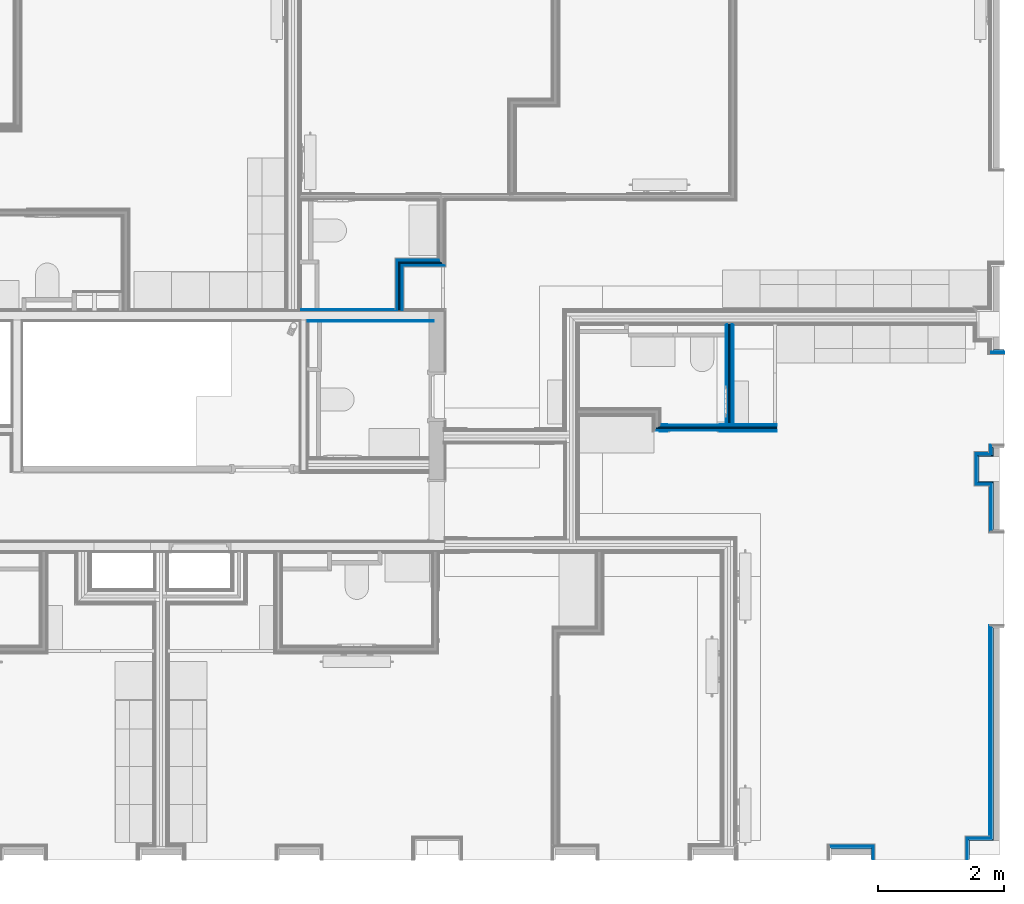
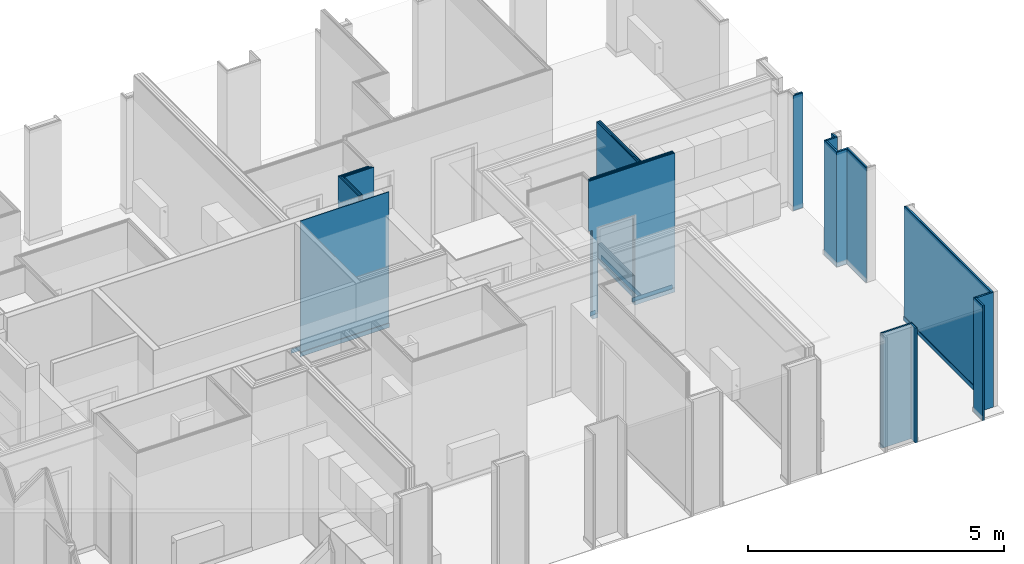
# One storey, part 24 of 65: 53 building element parts, 2 openings, 16 elements without a shape of their own.
"""IFC2X3 building model written with IfcOpenShell, lengths in metres."""

import ifcopenshell
import ifcopenshell.guid

model = None  # the IFC model being written
_history = None  # IfcOwnerHistory: only IFC2X3 demands one
_inside = {}  # id of a spatial element -> (the spatial element, [elements in it])
_under = {}  # id of a project, library or spatial element -> (it, [spatial elements below it])
_declared = {}  # id of a project -> (the project, [libraries it declares])
_typed = {}  # id of a type object -> (the type object, [elements of that type])
_made_of = {}  # id of a material, layer set ... -> (it, [elements and type objects made of it])


def new_model(schema):
    """Start an empty IFC model of exactly this schema.

    Asked for "IFC4X3", IfcOpenShell would pick the latest addendum, in which some entities
    have other attributes; the version numbers below select the first issue.
    IFC2X3 requires an IfcOwnerHistory on every rooted entity: one is made here for all.
    """
    global model, _history
    if schema == "IFC4X3":
        model = ifcopenshell.file(schema_version=(4, 3, 0, 0))
    else:
        model = ifcopenshell.file(schema=schema)
    _inside.clear()
    _under.clear()
    _declared.clear()
    _typed.clear()
    _made_of.clear()
    _history = None
    if model.schema == "IFC2X3":
        org = make("IfcOrganization", Name="unknown")
        user = make(
            "IfcPersonAndOrganization",
            ThePerson=make("IfcPerson", FamilyName="unknown"),
            TheOrganization=org,
        )
        app = make(
            "IfcApplication",
            ApplicationDeveloper=org,
            Version="unknown",
            ApplicationFullName="unknown",
            ApplicationIdentifier="unknown",
        )
        _history = make(
            "IfcOwnerHistory",
            OwningUser=user,
            OwningApplication=app,
            ChangeAction="ADDED",
            CreationDate=0,
        )
    return model


def make(cls, **values):
    """One entity of the class cls with the attributes given. An attribute that is None is left unset."""
    return model.create_entity(
        cls, **{name: value for name, value in values.items() if value is not None}
    )


def entity(cls, *values):
    """Any entity or typed value of the class cls, its attributes in the order of the schema. None: left unset."""
    e = model.create_entity(cls)
    for i, value in enumerate(values):
        if value is not None:
            e[i] = value
    return e


def rooted(cls, **values):
    """An entity with a GlobalId (a new one), such as an element, a storey or a relation."""
    return make(cls, GlobalId=ifcopenshell.guid.new(), OwnerHistory=_history, **values)


def si_unit(unit_type, name, prefix=None):
    """IfcSIUnit, for example si_unit("LENGTHUNIT", "METRE", prefix="MILLI")."""
    return make("IfcSIUnit", UnitType=unit_type, Prefix=prefix, Name=name)


def converted_unit(unit_type, name, factor, base, dimensions=None, offset=None):
    """IfcConversionBasedUnit, such as the inch: factor (a typed value) times the base unit."""
    return make(
        "IfcConversionBasedUnit"
        if offset is None
        else "IfcConversionBasedUnitWithOffset",
        ConversionOffset=offset,
        Dimensions=None
        if dimensions is None
        else entity("IfcDimensionalExponents", *dimensions),
        UnitType=unit_type,
        Name=name,
        ConversionFactor=make(
            "IfcMeasureWithUnit", ValueComponent=factor, UnitComponent=base
        ),
    )


def derived_unit(unit_type, elements):
    """IfcDerivedUnit: a product of units, each with its exponent."""
    return make(
        "IfcDerivedUnit",
        Elements=[
            make("IfcDerivedUnitElement", Unit=unit, Exponent=power)
            for unit, power in elements
        ],
        UnitType=unit_type,
    )


def money_unit(currency):
    """IfcMonetaryUnit."""
    return make("IfcMonetaryUnit", Currency=currency)


def assignment(units):
    """IfcUnitAssignment: the units of a project."""
    return None if units is None else make("IfcUnitAssignment", Units=units)


def point(xyz):
    """IfcCartesianPoint."""
    return None if xyz is None else make("IfcCartesianPoint", Coordinates=xyz)


def direction(xyz):
    """IfcDirection."""
    return None if xyz is None else make("IfcDirection", DirectionRatios=xyz)


def frame(location, z_axis=None, x_axis=None):
    """IfcAxis2Placement3D, a coordinate frame: its origin and axes. An axis left out is left unset."""
    return make(
        "IfcAxis2Placement3D",
        Location=point(location),
        Axis=direction(z_axis),
        RefDirection=direction(x_axis),
    )


def frame_2d(location, x_axis=None):
    """IfcAxis2Placement2D, a coordinate frame in the plane: its origin and x axis."""
    return make(
        "IfcAxis2Placement2D", Location=point(location), RefDirection=direction(x_axis)
    )


def origin_with_axes():
    """The frame at (0, 0, 0) with the z axis (0, 0, 1) and the x axis (1, 0, 0) written out."""
    return frame((0.0, 0.0, 0.0), z_axis=(0.0, 0.0, 1.0), x_axis=(1.0, 0.0, 0.0))


def place(relative_to, where):
    """IfcLocalPlacement: puts the frame where relative to a parent placement (None: the world)."""
    return make(
        "IfcLocalPlacement", PlacementRelTo=relative_to, RelativePlacement=where
    )


def context(
    kind, dimensions, precision=None, world=None, true_north=None, identifier=None
):
    """IfcGeometricRepresentationContext, for example the 3D "Model" context."""
    return make(
        "IfcGeometricRepresentationContext",
        ContextIdentifier=identifier,
        ContextType=kind,
        CoordinateSpaceDimension=dimensions,
        Precision=precision,
        WorldCoordinateSystem=world,
        TrueNorth=true_north,
    )


def subcontext(parent, identifier, kind, view, scale=None):
    """IfcGeometricRepresentationSubContext, for example "Body" below "Model"."""
    return make(
        "IfcGeometricRepresentationSubContext",
        ContextIdentifier=identifier,
        ContextType=kind,
        ParentContext=parent,
        TargetScale=scale,
        TargetView=view,
    )


def project(units=None, contexts=None):
    """IfcProject with its units and contexts."""
    return rooted(
        "IfcProject",
        Name="project",
        RepresentationContexts=contexts,
        UnitsInContext=assignment(units),
    )


def spatial(cls, under=None, at=None, **own):
    """A site, building, storey or space (cls), placed at a placement, below another one or the project."""
    s = rooted(cls, ObjectPlacement=at, **own)
    if under is not None:
        _under.setdefault(under.id(), (under, []))[1].append(s)
    return s


def polyline(points):
    """IfcPolyline through the points."""
    return make("IfcPolyline", Points=[point(p) for p in points])


def profile(cls, at=None, kind="AREA", **sizes):
    """A parametric profile (cls). Its sizes go by their IFC names, for example OverallWidth=200.0."""
    return make(cls, ProfileType=kind, Position=at, **sizes)


def rectangle(**sizes):
    """IfcRectangleProfileDef."""
    return profile("IfcRectangleProfileDef", **sizes)


def outline(outer, holes=None, kind="AREA"):
    """IfcArbitraryClosedProfileDef: a profile drawn as a closed curve; with holes, ...WithVoids."""
    if holes is None:
        return make("IfcArbitraryClosedProfileDef", ProfileType=kind, OuterCurve=outer)
    return make(
        "IfcArbitraryProfileDefWithVoids",
        ProfileType=kind,
        OuterCurve=outer,
        InnerCurves=holes,
    )


def extrude(swept, where, along, depth):
    """IfcExtrudedAreaSolid: the profile swept, set in the frame where, extruded along a direction by depth."""
    return make(
        "IfcExtrudedAreaSolid",
        SweptArea=swept,
        Position=where,
        ExtrudedDirection=direction(along),
        Depth=depth,
    )


def shape(context_of_items, identifier, shape_type, items):
    """IfcShapeRepresentation: the items that make up one representation, for example the "Body"."""
    return make(
        "IfcShapeRepresentation",
        ContextOfItems=context_of_items,
        RepresentationIdentifier=identifier,
        RepresentationType=shape_type,
        Items=items,
    )


def material(Name=None, Category=None):
    """IfcMaterial."""
    return make("IfcMaterial", Name=Name, Category=Category)


def made_of(thing, what):
    """Note that an element or type object is made of a material, layer set ...; save() writes the relation."""
    if what is not None:
        _made_of.setdefault(what.id(), (what, []))[1].append(thing)
    return thing


def type_object(cls, material=None, **own):
    """A type object (cls), such as IfcWallType, which elements share."""
    return made_of(rooted(cls, **own), material)


def element(
    cls,
    number,
    at=None,
    inside=None,
    cuts=None,
    type_object=None,
    material=None,
    context=None,
    identifier="Body",
    shape_type=None,
    held_by="IfcProductDefinitionShape",
    body=None,
    shapes=None,
    **own,
):
    """One element of the class cls, such as IfcWall. Its Tag is "e" and its number.

    at: its placement. inside: the storey or other place that contains it. cuts: it is an
    opening in that element (IfcRelVoidsElement). A single representation is given by context,
    identifier, shape_type and body (its items); several are given by shapes. held_by: the class
    of the entity that holds the representations. save() writes the other relations.
    """
    e = rooted(cls, Tag="e%d" % number, ObjectPlacement=at, **own)
    if body is not None:
        shapes = [shape(context, identifier, shape_type, body)]
    if shapes is not None:
        e.Representation = make(held_by, Representations=shapes)
    if inside is not None:
        _inside.setdefault(inside.id(), (inside, []))[1].append(e)
    if cuts is not None:
        rooted(
            "IfcRelVoidsElement", RelatingBuildingElement=cuts, RelatedOpeningElement=e
        )
    if type_object is not None:
        _typed.setdefault(type_object.id(), (type_object, []))[1].append(e)
    return made_of(e, material)


def aggregate(whole, parts):
    """IfcRelAggregates: a whole, such as a stair, and the parts it consists of."""
    return rooted("IfcRelAggregates", RelatingObject=whole, RelatedObjects=parts)


def save(model, path):
    """Write the relations noted so far, then the file.

    IfcRelAggregates (storeys below a building ...), IfcRelContainedInSpatialStructure (elements
    in a storey), IfcRelDefinesByType, IfcRelAssociatesMaterial and IfcRelDeclares: one each for
    every whole, place, type object, material and project.
    """
    for whole, parts in _under.values():
        aggregate(whole, parts)
    for where, things in _inside.values():
        rooted(
            "IfcRelContainedInSpatialStructure",
            RelatedElements=things,
            RelatingStructure=where,
        )
    for kind, things in _typed.values():
        rooted("IfcRelDefinesByType", RelatedObjects=things, RelatingType=kind)
    for what, things in _made_of.values():
        rooted("IfcRelAssociatesMaterial", RelatedObjects=things, RelatingMaterial=what)
    for by, libraries in _declared.values():
        rooted("IfcRelDeclares", RelatingContext=by, RelatedDefinitions=libraries)
    model.write(path)


model = new_model("IFC2X3")

# Units and contexts
model_context = context("Model", 3, precision=1e-05, world=origin_with_axes(), true_north=direction((0.0, 1.0)))
body_context = subcontext(model_context, "Body", "Model", "MODEL_VIEW", scale=1.0)
ifc_project = project(units=[si_unit("LENGTHUNIT", "METRE"), si_unit("AREAUNIT", "SQUARE_METRE"), si_unit("VOLUMEUNIT", "CUBIC_METRE"), si_unit("ABSORBEDDOSEUNIT", "GRAY"), si_unit("AMOUNTOFSUBSTANCEUNIT", "MOLE"), si_unit("DOSEEQUIVALENTUNIT", "SIEVERT"), si_unit("ELECTRICCAPACITANCEUNIT", "FARAD"), si_unit("ELECTRICCHARGEUNIT", "COULOMB"), si_unit("ELECTRICCONDUCTANCEUNIT", "SIEMENS"), si_unit("ELECTRICCURRENTUNIT", "AMPERE"), si_unit("ELECTRICRESISTANCEUNIT", "OHM"), si_unit("ELECTRICVOLTAGEUNIT", "VOLT"), si_unit("ENERGYUNIT", "JOULE"), si_unit("FORCEUNIT", "NEWTON"), si_unit("FREQUENCYUNIT", "HERTZ"), si_unit("ILLUMINANCEUNIT", "LUX"), si_unit("INDUCTANCEUNIT", "HENRY"), si_unit("LUMINOUSFLUXUNIT", "LUMEN"), si_unit("LUMINOUSINTENSITYUNIT", "CANDELA"), si_unit("MAGNETICFLUXDENSITYUNIT", "TESLA"), si_unit("MAGNETICFLUXUNIT", "WEBER"), si_unit("MASSUNIT", "GRAM"), converted_unit("PLANEANGLEUNIT", "degree", entity("IfcReal", 0.0174532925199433), si_unit("PLANEANGLEUNIT", "RADIAN"), dimensions=[0, 0, 0, 0, 0, 0, 0]), si_unit("POWERUNIT", "WATT"), si_unit("PRESSUREUNIT", "PASCAL"), si_unit("RADIOACTIVITYUNIT", "BECQUEREL"), si_unit("SOLIDANGLEUNIT", "STERADIAN"), si_unit("THERMODYNAMICTEMPERATUREUNIT", "KELVIN"), si_unit("TIMEUNIT", "SECOND"), derived_unit("ACCELERATIONUNIT", [(si_unit("LENGTHUNIT", "METRE"), 1), (si_unit("TIMEUNIT", "SECOND"), -2)]), derived_unit("ANGULARVELOCITYUNIT", [(converted_unit("PLANEANGLEUNIT", "degree", entity("IfcReal", 0.0174532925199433), si_unit("PLANEANGLEUNIT", "RADIAN"), dimensions=[0, 0, 0, 0, 0, 0, 0]), 1), (si_unit("TIMEUNIT", "SECOND"), -1)]), derived_unit("CURVATUREUNIT", [(converted_unit("PLANEANGLEUNIT", "degree", entity("IfcReal", 0.0174532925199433), si_unit("PLANEANGLEUNIT", "RADIAN"), dimensions=[0, 0, 0, 0, 0, 0, 0]), 1), (si_unit("LENGTHUNIT", "METRE"), -1)]), derived_unit("DYNAMICVISCOSITYUNIT", [(si_unit("PRESSUREUNIT", "PASCAL"), 1), (si_unit("TIMEUNIT", "SECOND"), 1)]), derived_unit("HEATFLUXDENSITYUNIT", [(si_unit("POWERUNIT", "WATT"), 1), (si_unit("LENGTHUNIT", "METRE"), -2)]), derived_unit("HEATINGVALUEUNIT", [(si_unit("ENERGYUNIT", "JOULE"), 1), (si_unit("MASSUNIT", "GRAM"), -1)]), derived_unit("INTEGERCOUNTRATEUNIT", [(si_unit("TIMEUNIT", "SECOND"), -1)]), derived_unit("IONCONCENTRATIONUNIT", [(si_unit("MASSUNIT", "GRAM"), 1), (si_unit("VOLUMEUNIT", "CUBIC_METRE"), -1)]), derived_unit("ISOTHERMALMOISTURECAPACITYUNIT", [(si_unit("VOLUMEUNIT", "CUBIC_METRE"), 1), (si_unit("MASSUNIT", "GRAM"), -1)]), derived_unit("KINEMATICVISCOSITYUNIT", [(si_unit("AREAUNIT", "SQUARE_METRE"), 1), (si_unit("TIMEUNIT", "SECOND"), -1)]), derived_unit("LINEARFORCEUNIT", [(si_unit("FORCEUNIT", "NEWTON"), 1), (si_unit("LENGTHUNIT", "METRE"), -1)]), derived_unit("LINEARMOMENTUNIT", [(si_unit("FORCEUNIT", "NEWTON"), 1), (si_unit("LENGTHUNIT", "METRE"), -1)]), derived_unit("LINEARSTIFFNESSUNIT", [(si_unit("FORCEUNIT", "NEWTON"), 1), (si_unit("LENGTHUNIT", "METRE"), -1)]), derived_unit("LINEARVELOCITYUNIT", [(si_unit("LENGTHUNIT", "METRE"), 1), (si_unit("TIMEUNIT", "SECOND"), -1)]), derived_unit("LUMINOUSINTENSITYDISTRIBUTIONUNIT", [(si_unit("LUMINOUSINTENSITYUNIT", "CANDELA"), 1), (si_unit("LUMINOUSFLUXUNIT", "LUMEN"), -1)]), derived_unit("MASSDENSITYUNIT", [(si_unit("MASSUNIT", "GRAM"), 1), (si_unit("VOLUMEUNIT", "CUBIC_METRE"), -1)]), derived_unit("MASSFLOWRATEUNIT", [(si_unit("MASSUNIT", "GRAM"), 1), (si_unit("TIMEUNIT", "SECOND"), -1)]), derived_unit("MASSPERLENGTHUNIT", [(si_unit("MASSUNIT", "GRAM"), 1), (si_unit("LENGTHUNIT", "METRE"), -1)]), derived_unit("MODULUSOFELASTICITYUNIT", [(si_unit("FORCEUNIT", "NEWTON"), 1), (si_unit("AREAUNIT", "SQUARE_METRE"), -1)]), derived_unit("MODULUSOFLINEARSUBGRADEREACTIONUNIT", [(si_unit("FORCEUNIT", "NEWTON"), 1), (si_unit("LENGTHUNIT", "METRE"), -2)]), derived_unit("MODULUSOFROTATIONALSUBGRADEREACTIONUNIT", [(si_unit("FORCEUNIT", "NEWTON"), 1), (si_unit("LENGTHUNIT", "METRE"), 1)]), derived_unit("MODULUSOFSUBGRADEREACTIONUNIT", [(si_unit("FORCEUNIT", "NEWTON"), 1), (si_unit("VOLUMEUNIT", "CUBIC_METRE"), -1)]), derived_unit("MOISTUREDIFFUSIVITYUNIT", [(si_unit("VOLUMEUNIT", "CUBIC_METRE"), 1), (si_unit("TIMEUNIT", "SECOND"), -1)]), derived_unit("MOLECULARWEIGHTUNIT", [(si_unit("MASSUNIT", "GRAM"), 1), (si_unit("AMOUNTOFSUBSTANCEUNIT", "MOLE"), -1)]), derived_unit("PLANARFORCEUNIT", [(si_unit("FORCEUNIT", "NEWTON"), 1), (si_unit("LENGTHUNIT", "METRE"), -2)]), derived_unit("ROTATIONALFREQUENCYUNIT", [(si_unit("TIMEUNIT", "SECOND"), -1)]), derived_unit("ROTATIONALMASSUNIT", [(si_unit("MASSUNIT", "GRAM"), 1), (si_unit("LENGTHUNIT", "METRE"), 2)]), derived_unit("ROTATIONALSTIFFNESSUNIT", [(si_unit("FORCEUNIT", "NEWTON"), 1), (si_unit("LENGTHUNIT", "METRE"), 1), (converted_unit("PLANEANGLEUNIT", "degree", entity("IfcReal", 0.0174532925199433), si_unit("PLANEANGLEUNIT", "RADIAN"), dimensions=[0, 0, 0, 0, 0, 0, 0]), -1)]), derived_unit("SECTIONAREAINTEGRALUNIT", [(si_unit("LENGTHUNIT", "METRE"), 5)]), derived_unit("SECTIONMODULUSUNIT", [(si_unit("LENGTHUNIT", "METRE"), 3)]), derived_unit("SHEARMODULUSUNIT", [(si_unit("FORCEUNIT", "NEWTON"), 1), (si_unit("AREAUNIT", "SQUARE_METRE"), -1)]), derived_unit("SOUNDPOWERUNIT", [(si_unit("ENERGYUNIT", "JOULE"), 1), (si_unit("TIMEUNIT", "SECOND"), -1)]), derived_unit("SPECIFICHEATCAPACITYUNIT", [(si_unit("FORCEUNIT", "NEWTON"), 1), (si_unit("MASSUNIT", "GRAM"), -1), (si_unit("THERMODYNAMICTEMPERATUREUNIT", "KELVIN"), -1)]), derived_unit("TEMPERATUREGRADIENTUNIT", [(si_unit("THERMODYNAMICTEMPERATUREUNIT", "KELVIN"), 1), (si_unit("LENGTHUNIT", "METRE"), -1)]), derived_unit("THERMALADMITTANCEUNIT", [(si_unit("POWERUNIT", "WATT"), 1), (si_unit("AREAUNIT", "SQUARE_METRE"), -1), (si_unit("THERMODYNAMICTEMPERATUREUNIT", "KELVIN"), -1)]), derived_unit("THERMALCONDUCTANCEUNIT", [(si_unit("POWERUNIT", "WATT"), 1), (si_unit("LENGTHUNIT", "METRE"), -1), (si_unit("THERMODYNAMICTEMPERATUREUNIT", "KELVIN"), -1)]), derived_unit("THERMALEXPANSIONCOEFFICIENTUNIT", [(si_unit("THERMODYNAMICTEMPERATUREUNIT", "KELVIN"), -1)]), derived_unit("THERMALRESISTANCEUNIT", [(si_unit("AREAUNIT", "SQUARE_METRE"), 1), (si_unit("POWERUNIT", "WATT"), -1)]), derived_unit("THERMALTRANSMITTANCEUNIT", [(si_unit("POWERUNIT", "WATT"), 1), (si_unit("AREAUNIT", "SQUARE_METRE"), -1), (si_unit("THERMODYNAMICTEMPERATUREUNIT", "KELVIN"), -1)]), derived_unit("TORQUEUNIT", [(si_unit("FORCEUNIT", "NEWTON"), 1), (si_unit("LENGTHUNIT", "METRE"), 1)]), derived_unit("VAPORPERMEABILITYUNIT", [(si_unit("MASSUNIT", "GRAM"), 1), (si_unit("TIMEUNIT", "SECOND"), -1)]), derived_unit("VOLUMETRICFLOWRATEUNIT", [(si_unit("VOLUMEUNIT", "CUBIC_METRE"), 1), (si_unit("TIMEUNIT", "SECOND"), -1)]), derived_unit("WARPINGCONSTANTUNIT", [(si_unit("LENGTHUNIT", "METRE"), 6)]), derived_unit("WARPINGMOMENTUNIT", [(si_unit("FORCEUNIT", "NEWTON"), 1), (si_unit("LENGTHUNIT", "METRE"), 2)]), money_unit("GBP")], contexts=[model_context])

# Site, building, storey
site_placement = place(None, origin_with_axes())
site = spatial("IfcSite", under=ifc_project, at=site_placement, Name="Site", CompositionType="ELEMENT")
building_placement = place(site_placement, origin_with_axes())
building = spatial("IfcBuilding", under=site, at=building_placement, Name="Building01", CompositionType="ELEMENT")
storey_placement = place(building_placement, frame((0.0, 0.0, 8.64), z_axis=(0.0, 0.0, 1.0), x_axis=(1.0, 0.0, 0.0)))
storey = spatial("IfcBuildingStorey", under=building, at=storey_placement, Name="2F", CompositionType="ELEMENT", Elevation=8.64)

# Wall, building element parts
wall_type_1 = type_object("IfcWallType", Name="SHE_A-Walls_Type06d_ExternalWallInsulation_48mm", PredefinedType="NOTDEFINED")
wall_1_placement = place(storey_placement, frame((24.143, 0.27, 0.0), z_axis=(0.0, 0.0, 1.0), x_axis=(1.0, 0.0, 0.0)))
wall_1 = element("IfcWall", 1, at=wall_1_placement, inside=storey, type_object=wall_type_1, Name="6D", ObjectType="SHE_A-Walls_Type06d_ExternalWallInsulation_48mm")
ifc_material_1 = material(Name="A_BSUK_Insulation")
placement_1 = place(wall_1_placement, origin_with_axes())
building_element_part_1 = element("IfcBuildingElementPart", 2, at=placement_1, material=ifc_material_1, Name="1", context=body_context, shape_type="SweptSolid", body=[
    extrude(outline(polyline([(0.66, 0.036), (-0.036, 0.036), (0.0, 0.0), (0.624, 0.0), (0.66, 0.036)])), origin_with_axes(), (0.0, 0.0, 1.0), 2.74),
])
ifc_material_2 = material(Name="A_BSUK_WallInternal_Finishes_Plasterboard")
building_element_part_2 = element("IfcBuildingElementPart", 3, at=placement_1, material=ifc_material_2, Name="2", context=body_context, shape_type="SweptSolid", body=[
    extrude(outline(polyline([(0.672, 0.048), (-0.048, 0.048), (-0.035, 0.035), (0.659, 0.035), (0.672, 0.048)])), origin_with_axes(), (0.0, 0.0, 1.0), 2.74),
])
aggregate(wall_1, [building_element_part_1, building_element_part_2])

wall_2_placement = place(storey_placement, frame((24.767, 0.27, 0.0), z_axis=(0.0, 0.0, 1.0), x_axis=(0.0, -1.0, 0.0)))
wall_2 = element("IfcWall", 4, at=wall_2_placement, inside=storey, type_object=wall_type_1, Name="6D", ObjectType="SHE_A-Walls_Type06d_ExternalWallInsulation_48mm")
placement_2 = place(wall_2_placement, origin_with_axes())
building_element_part_3 = element("IfcBuildingElementPart", 5, at=placement_2, material=ifc_material_1, Name="1", context=body_context, shape_type="SweptSolid", body=[
    extrude(outline(polyline([(-0.036, 0.036), (0.0, 0.0), (0.17, 0.0), (0.17, 0.036), (-0.036, 0.036)])), origin_with_axes(), (0.0, 0.0, 1.0), 2.74),
])
building_element_part_4 = element("IfcBuildingElementPart", 6, at=placement_2, material=ifc_material_2, Name="2", context=body_context, shape_type="SweptSolid", body=[
    extrude(outline(polyline([(-0.048, 0.048), (-0.035, 0.035), (0.17, 0.035), (0.17, 0.048), (-0.048, 0.048)])), origin_with_axes(), (0.0, 0.0, 1.0), 2.74),
])
aggregate(wall_2, [building_element_part_3, building_element_part_4])

wall_3_placement = place(storey_placement, frame((26.333, 0.1, 0.0), z_axis=(0.0, 0.0, 1.0), x_axis=(0.0, 1.0, 0.0)))
wall_3 = element("IfcWall", 7, at=wall_3_placement, inside=storey, type_object=wall_type_1, Name="6D", ObjectType="SHE_A-Walls_Type06d_ExternalWallInsulation_48mm")
placement_3 = place(wall_3_placement, origin_with_axes())
building_element_part_5 = element("IfcBuildingElementPart", 8, at=placement_3, material=ifc_material_1, Name="1", context=body_context, shape_type="SweptSolid", body=[
    extrude(outline(polyline([(0.336, 0.036), (0.0, 0.036), (0.0, 0.0), (0.3, 0.0), (0.336, 0.036)])), origin_with_axes(), (0.0, 0.0, 1.0), 2.74),
])
building_element_part_6 = element("IfcBuildingElementPart", 9, at=placement_3, material=ifc_material_2, Name="2", context=body_context, shape_type="SweptSolid", body=[
    extrude(outline(polyline([(0.348, 0.048), (0.0, 0.048), (0.0, 0.035), (0.335, 0.035), (0.348, 0.048)])), origin_with_axes(), (0.0, 0.0, 1.0), 2.74),
])
aggregate(wall_3, [building_element_part_5, building_element_part_6])

wall_4_placement = place(storey_placement, frame((26.333, 0.4, 0.0), z_axis=(0.0, 0.0, 1.0), x_axis=(1.0, 0.0, 0.0)))
wall_4 = element("IfcWall", 10, at=wall_4_placement, inside=storey, type_object=wall_type_1, Name="6D", ObjectType="SHE_A-Walls_Type06d_ExternalWallInsulation_48mm")
placement_4 = place(wall_4_placement, origin_with_axes())
building_element_part_7 = element("IfcBuildingElementPart", 11, at=placement_4, material=ifc_material_1, Name="1", context=body_context, shape_type="SweptSolid", body=[
    extrude(outline(polyline([(0.341, 0.036), (-0.036, 0.036), (0.0, 0.0), (0.377, 0.0), (0.341, 0.036)])), origin_with_axes(), (0.0, 0.0, 1.0), 2.74),
])
building_element_part_8 = element("IfcBuildingElementPart", 12, at=placement_4, material=ifc_material_2, Name="2", context=body_context, shape_type="SweptSolid", body=[
    extrude(outline(polyline([(0.329, 0.048), (-0.048, 0.048), (-0.035, 0.035), (0.342, 0.035), (0.329, 0.048)])), origin_with_axes(), (0.0, 0.0, 1.0), 2.74),
])
aggregate(wall_4, [building_element_part_7, building_element_part_8])

wall_5_placement = place(storey_placement, frame((26.71, 0.4, 0.0), z_axis=(0.0, 0.0, 1.0), x_axis=(0.0, 1.0, 0.0)))
wall_5 = element("IfcWall", 13, at=wall_5_placement, inside=storey, type_object=wall_type_1, Name="6D", ObjectType="SHE_A-Walls_Type06d_ExternalWallInsulation_48mm")
placement_5 = place(wall_5_placement, origin_with_axes())
building_element_part_9 = element("IfcBuildingElementPart", 14, at=placement_5, material=ifc_material_1, Name="1", context=body_context, shape_type="SweptSolid", body=[
    extrude(outline(polyline([(3.41018, 0.036), (0.036, 0.036), (0.0, 0.0), (3.37418, 0.0), (3.41018, 0.036)])), origin_with_axes(), (0.0, 0.0, 1.0), 2.74),
])
building_element_part_10 = element("IfcBuildingElementPart", 15, at=placement_5, material=ifc_material_2, Name="2", context=body_context, shape_type="SweptSolid", body=[
    extrude(outline(polyline([(3.42218, 0.048), (0.048, 0.048), (0.035, 0.035), (3.40918, 0.035), (3.42218, 0.048)])), origin_with_axes(), (0.0, 0.0, 1.0), 2.74),
])
ifc_material_3 = material(Name="A_BSUK_Walls_Timber")
building_element_part_11 = element("IfcBuildingElementPart", 16, at=placement_5, material=ifc_material_3, Name="3", context=body_context, shape_type="SweptSolid", body=[
    extrude(outline(polyline([(0.063, 0.063), (0.048, 0.048), (3.42218, 0.048), (3.42218, 0.063), (0.063, 0.063)])), frame((0.0, 0.0, 0.015), z_axis=(0.0, 0.0, 1.0), x_axis=(1.0, 0.0, 0.0)), (0.0, 0.0, 1.0), 0.1),
])
aggregate(wall_5, [building_element_part_9, building_element_part_10, building_element_part_11])

wall_6_placement = place(storey_placement, frame((26.71, 5.34018, 0.0), z_axis=(0.0, 0.0, 1.0), x_axis=(0.0, 1.0, 0.0)))
wall_6 = element("IfcWall", 17, at=wall_6_placement, inside=storey, type_object=wall_type_1, Name="6D", ObjectType="SHE_A-Walls_Type06d_ExternalWallInsulation_48mm")
placement_6 = place(wall_6_placement, origin_with_axes())
building_element_part_12 = element("IfcBuildingElementPart", 18, at=placement_6, material=ifc_material_1, Name="1", context=body_context, shape_type="SweptSolid", body=[
    extrude(outline(polyline([(0.72382, 0.036), (-0.036, 0.036), (0.0, 0.0), (0.75982, 0.0), (0.72382, 0.036)])), origin_with_axes(), (0.0, 0.0, 1.0), 2.74),
])
building_element_part_13 = element("IfcBuildingElementPart", 19, at=placement_6, material=ifc_material_2, Name="2", context=body_context, shape_type="SweptSolid", body=[
    extrude(outline(polyline([(0.71182, 0.048), (-0.048, 0.048), (-0.035, 0.035), (0.72482, 0.035), (0.71182, 0.048)])), origin_with_axes(), (0.0, 0.0, 1.0), 2.74),
])
aggregate(wall_6, [building_element_part_12, building_element_part_13])

wall_7_placement = place(storey_placement, frame((26.71, 6.1, 0.0), z_axis=(0.0, 0.0, 1.0), x_axis=(-1.0, 0.0, 0.0)))
wall_7 = element("IfcWall", 20, at=wall_7_placement, inside=storey, type_object=wall_type_1, Name="6D", ObjectType="SHE_A-Walls_Type06d_ExternalWallInsulation_48mm")
placement_7 = place(wall_7_placement, origin_with_axes())
building_element_part_14 = element("IfcBuildingElementPart", 21, at=placement_7, material=ifc_material_1, Name="1", context=body_context, shape_type="SweptSolid", body=[
    extrude(outline(polyline([(0.266, 0.036), (0.036, 0.036), (0.0, 0.0), (0.23, 0.0), (0.266, 0.036)])), origin_with_axes(), (0.0, 0.0, 1.0), 2.74),
])
building_element_part_15 = element("IfcBuildingElementPart", 22, at=placement_7, material=ifc_material_2, Name="2", context=body_context, shape_type="SweptSolid", body=[
    extrude(outline(polyline([(0.278, 0.048), (0.048, 0.048), (0.035, 0.035), (0.265, 0.035), (0.278, 0.048)])), origin_with_axes(), (0.0, 0.0, 1.0), 2.74),
])
aggregate(wall_7, [building_element_part_14, building_element_part_15])

wall_8_placement = place(storey_placement, frame((26.48, 6.1, 0.0), z_axis=(0.0, 0.0, 1.0), x_axis=(0.0, 1.0, 0.0)))
wall_8 = element("IfcWall", 23, at=wall_8_placement, inside=storey, type_object=wall_type_1, Name="6D", ObjectType="SHE_A-Walls_Type06d_ExternalWallInsulation_48mm")
placement_8 = place(wall_8_placement, origin_with_axes())
building_element_part_16 = element("IfcBuildingElementPart", 24, at=placement_8, material=ifc_material_1, Name="1", context=body_context, shape_type="SweptSolid", body=[
    extrude(outline(polyline([(0.436, 0.036), (-0.036, 0.036), (0.0, 0.0), (0.4, 0.0), (0.436, 0.036)])), origin_with_axes(), (0.0, 0.0, 1.0), 2.74),
])
building_element_part_17 = element("IfcBuildingElementPart", 25, at=placement_8, material=ifc_material_2, Name="2", context=body_context, shape_type="SweptSolid", body=[
    extrude(outline(polyline([(0.448, 0.048), (-0.048, 0.048), (-0.035, 0.035), (0.435, 0.035), (0.448, 0.048)])), origin_with_axes(), (0.0, 0.0, 1.0), 2.74),
])
aggregate(wall_8, [building_element_part_16, building_element_part_17])

wall_9_placement = place(storey_placement, frame((26.48, 6.5, 0.0), z_axis=(0.0, 0.0, 1.0), x_axis=(1.0, 0.0, 0.0)))
wall_9 = element("IfcWall", 26, at=wall_9_placement, inside=storey, type_object=wall_type_1, Name="6D", ObjectType="SHE_A-Walls_Type06d_ExternalWallInsulation_48mm")
placement_9 = place(wall_9_placement, origin_with_axes())
building_element_part_18 = element("IfcBuildingElementPart", 27, at=placement_9, material=ifc_material_1, Name="1", context=body_context, shape_type="SweptSolid", body=[
    extrude(outline(polyline([(0.194, 0.036), (-0.036, 0.036), (0.0, 0.0), (0.23, 0.0), (0.194, 0.036)])), origin_with_axes(), (0.0, 0.0, 1.0), 2.74),
])
building_element_part_19 = element("IfcBuildingElementPart", 28, at=placement_9, material=ifc_material_2, Name="2", context=body_context, shape_type="SweptSolid", body=[
    extrude(outline(polyline([(0.182, 0.048), (-0.048, 0.048), (-0.035, 0.035), (0.195, 0.035), (0.182, 0.048)])), origin_with_axes(), (0.0, 0.0, 1.0), 2.74),
])
aggregate(wall_9, [building_element_part_18, building_element_part_19])

wall_10_placement = place(storey_placement, frame((26.71, 6.5, 0.0), z_axis=(0.0, 0.0, 1.0), x_axis=(0.0, 1.0, 0.0)))
wall_10 = element("IfcWall", 29, at=wall_10_placement, inside=storey, type_object=wall_type_1, Name="6D", ObjectType="SHE_A-Walls_Type06d_ExternalWallInsulation_48mm")
placement_10 = place(wall_10_placement, origin_with_axes())
building_element_part_20 = element("IfcBuildingElementPart", 30, at=placement_10, material=ifc_material_1, Name="1", context=body_context, shape_type="SweptSolid", body=[
    extrude(outline(polyline([(0.170326, 0.036), (0.036, 0.036), (0.0, 0.0), (0.134326, 0.0), (0.170326, 0.036)])), origin_with_axes(), (0.0, 0.0, 1.0), 2.74),
])
building_element_part_21 = element("IfcBuildingElementPart", 31, at=placement_10, material=ifc_material_2, Name="2", context=body_context, shape_type="SweptSolid", body=[
    extrude(outline(polyline([(0.182326, 0.048), (0.048, 0.048), (0.035, 0.035), (0.169326, 0.035), (0.182326, 0.048)])), origin_with_axes(), (0.0, 0.0, 1.0), 2.74),
])
aggregate(wall_10, [building_element_part_20, building_element_part_21])

wall_type_2 = type_object("IfcWallType", Name="SHE_A-Walls_Type05a_Partition_95mm_tall", PredefinedType="NOTDEFINED")
wall_11_placement = place(storey_placement, frame((17.273132, 8.82, 0.0), z_axis=(0.0, 0.0, 1.0), x_axis=(0.0, 1.0, 0.0)))
wall_11 = element("IfcWall", 32, at=wall_11_placement, inside=storey, type_object=wall_type_2, Name="5A", ObjectType="SHE_A-Walls_Type05a_Partition_95mm_tall")
placement_11 = place(wall_11_placement, origin_with_axes())
building_element_part_22 = element("IfcBuildingElementPart", 33, at=placement_11, material=ifc_material_2, Name="2", context=body_context, shape_type="SweptSolid", body=[
    extrude(outline(polyline([(0.717, -0.048), (0.0, -0.048), (0.0, -0.06), (0.705, -0.06), (0.717, -0.048)])), origin_with_axes(), (0.0, 0.0, 1.0), 3.24),
])
ifc_material_4 = material(Name="Air Cavity")
building_element_part_23 = element("IfcBuildingElementPart", 34, at=placement_11, material=ifc_material_4, Name="3", context=body_context, shape_type="SweptSolid", body=[
    extrude(outline(polyline([(0.74, -0.025), (0.0, -0.025), (0.0, -0.048), (0.717, -0.048), (0.74, -0.025)])), origin_with_axes(), (0.0, 0.0, 1.0), 3.24),
])
building_element_part_24 = element("IfcBuildingElementPart", 35, at=placement_11, material=ifc_material_1, Name="4", context=body_context, shape_type="SweptSolid", body=[
    extrude(outline(polyline([(0.765, 0.0), (0.0, 0.0), (0.0, -0.025), (0.74, -0.025), (0.765, 0.0)])), origin_with_axes(), (0.0, 0.0, 1.0), 3.24),
])
building_element_part_25 = element("IfcBuildingElementPart", 36, at=placement_11, material=ifc_material_4, Name="5", context=body_context, shape_type="SweptSolid", body=[
    extrude(outline(polyline([(0.788, 0.023), (0.0, 0.023), (0.0, 0.0), (0.765, 0.0), (0.788, 0.023)])), origin_with_axes(), (0.0, 0.0, 1.0), 3.24),
])
building_element_part_26 = element("IfcBuildingElementPart", 37, at=placement_11, material=ifc_material_2, Name="6", context=body_context, shape_type="SweptSolid", body=[
    extrude(outline(polyline([(0.8, 0.035), (0.0, 0.035), (0.0, 0.023), (0.788, 0.023), (0.8, 0.035)])), origin_with_axes(), (0.0, 0.0, 1.0), 3.24),
])
aggregate(wall_11, [building_element_part_22, building_element_part_23, building_element_part_24, building_element_part_25, building_element_part_26])

wall_12_placement = place(storey_placement, frame((17.273132, 9.585, 0.0), z_axis=(0.0, 0.0, 1.0), x_axis=(1.0, 0.0, 0.0)))
wall_12 = element("IfcWall", 38, at=wall_12_placement, inside=storey, type_object=wall_type_2, Name="5A", ObjectType="SHE_A-Walls_Type05a_Partition_95mm_tall")
placement_12 = place(wall_12_placement, origin_with_axes())
building_element_part_27 = element("IfcBuildingElementPart", 39, at=placement_12, material=ifc_material_2, Name="2", context=body_context, shape_type="SweptSolid", body=[
    extrude(outline(polyline([(0.714868, -0.048), (0.048, -0.048), (0.06, -0.06), (0.726868, -0.06), (0.714868, -0.048)])), origin_with_axes(), (0.0, 0.0, 1.0), 3.24),
])
building_element_part_28 = element("IfcBuildingElementPart", 40, at=placement_12, material=ifc_material_4, Name="3", context=body_context, shape_type="SweptSolid", body=[
    extrude(outline(polyline([(0.691868, -0.025), (0.025, -0.025), (0.048, -0.048), (0.714868, -0.048), (0.691868, -0.025)])), origin_with_axes(), (0.0, 0.0, 1.0), 3.24),
])
building_element_part_29 = element("IfcBuildingElementPart", 41, at=placement_12, material=ifc_material_1, Name="4", context=body_context, shape_type="SweptSolid", body=[
    extrude(outline(polyline([(0.666868, 0.0), (0.0, 0.0), (0.025, -0.025), (0.691868, -0.025), (0.666868, 0.0)])), origin_with_axes(), (0.0, 0.0, 1.0), 3.24),
])
building_element_part_30 = element("IfcBuildingElementPart", 42, at=placement_12, material=ifc_material_4, Name="5", context=body_context, shape_type="SweptSolid", body=[
    extrude(outline(polyline([(0.643868, 0.023), (-0.023, 0.023), (0.0, 0.0), (0.666868, 0.0), (0.643868, 0.023)])), origin_with_axes(), (0.0, 0.0, 1.0), 3.24),
])
building_element_part_31 = element("IfcBuildingElementPart", 43, at=placement_12, material=ifc_material_2, Name="6", context=body_context, shape_type="SweptSolid", body=[
    extrude(outline(polyline([(0.631868, 0.035), (-0.035, 0.035), (-0.023, 0.023), (0.643868, 0.023), (0.631868, 0.035)])), origin_with_axes(), (0.0, 0.0, 1.0), 3.24),
])
aggregate(wall_12, [building_element_part_27, building_element_part_28, building_element_part_29, building_element_part_30, building_element_part_31])

wall_type_3 = type_object("IfcWallType", Name="SHE_A-Walls_Type03a_BlockworkWall_170mm", PredefinedType="NOTDEFINED")
wall_13_placement = place(storey_placement, frame((17.75, 8.805, 0.0), z_axis=(0.0, 0.0, 1.0), x_axis=(-1.0, 0.0, 0.0)))
wall_13 = element("IfcWall", 44, at=wall_13_placement, inside=storey, type_object=wall_type_3, Name="4B", ObjectType="SHE_A-Walls_Type03a_BlockworkWall_170mm")
placement_13 = place(wall_13_placement, origin_with_axes())
building_element_part_32 = element("IfcBuildingElementPart", 45, at=placement_13, material=ifc_material_3, Name="6", context=body_context, shape_type="SweptSolid", body=[
    extrude(rectangle(XDim=1.515, YDim=0.015, at=frame_2d((1.269368, -0.0225), x_axis=(-1.0, 0.0))), frame((0.0, 0.0, 0.015), z_axis=(0.0, 0.0, 1.0), x_axis=(1.0, 0.0, 0.0)), (0.0, 0.0, 1.0), 0.1),
])
ifc_material_5 = material(Name="A_BSUK_WallInternal_Finishes_Plaster")
building_element_part_33 = element("IfcBuildingElementPart", 46, at=placement_13, material=ifc_material_5, Name="9", context=body_context, shape_type="SweptSolid", body=[
    extrude(rectangle(XDim=2.0, YDim=0.015, at=frame_2d((0.92, 0.1475), x_axis=(-1.0, 0.0))), origin_with_axes(), (0.0, 0.0, 1.0), 3.24),
])
building_element_part_34 = element("IfcBuildingElementPart", 47, at=placement_13, material=ifc_material_3, Name="12", context=body_context, shape_type="SweptSolid", body=[
    extrude(rectangle(XDim=2.0, YDim=0.015, at=frame_2d((0.92, 0.1625), x_axis=(-1.0, 0.0))), frame((0.0, 0.0, 0.015), z_axis=(0.0, 0.0, 1.0), x_axis=(1.0, 0.0, 0.0)), (0.0, 0.0, 1.0), 0.1),
])
aggregate(wall_13, [building_element_part_32, building_element_part_33, building_element_part_34])

# Wall, openings, building element parts
wall_14_placement = place(storey_placement, frame((21.357661, 6.94, 0.0), z_axis=(0.0, 0.0, 1.0), x_axis=(1.0, 0.0, 0.0)))
wall_14 = element("IfcWall", 48, at=wall_14_placement, inside=storey, type_object=wall_type_2, Name="5A", ObjectType="SHE_A-Walls_Type05a_Partition_95mm_tall")
opening_1_placement = place(wall_14_placement, frame((-0.773, -0.05, -0.015), z_axis=(0.0, 0.0, 1.0), x_axis=(1.0, 0.0, 0.0)))
element("IfcOpeningElement", 49, at=opening_1_placement, cuts=wall_14, Name="Opening", ObjectType="Opening", context=body_context, shape_type="SweptSolid", body=[
    extrude(rectangle(XDim=0.834, YDim=2.142, at=frame_2d((-0.417, 1.071), x_axis=(1.0, 0.0))), frame((0.0, 0.0, 0.0), z_axis=(0.0, 1.0, 0.0), x_axis=(-1.0, 0.0, 0.0)), (0.0, 0.0, 1.0), 0.125),
])
opening_2_placement = place(wall_14_placement, frame((0.177, -0.05, 0.0), z_axis=(0.0, 0.0, 1.0), x_axis=(1.0, 0.0, 0.0)))
element("IfcOpeningElement", 50, at=opening_2_placement, cuts=wall_14, Name="Opening", ObjectType="Opening", context=body_context, shape_type="SweptSolid", body=[
    extrude(rectangle(XDim=2.142, YDim=0.834, at=frame_2d((-0.417, 1.071), x_axis=(0.0, -1.0))), frame((0.0, 0.0, 0.0), z_axis=(0.0, 1.0, 0.0), x_axis=(-1.0, 0.0, 0.0)), (0.0, 0.0, 1.0), 0.125),
])
placement_14 = place(wall_14_placement, origin_with_axes())
building_element_part_35 = element("IfcBuildingElementPart", 51, at=placement_14, material=ifc_material_3, Name="1", context=body_context, shape_type="SweptSolid", body=[
    extrude(outline(polyline([(1.913868, -0.035), (-0.035, -0.035), (-0.05, -0.05), (1.913868, -0.05), (1.913868, -0.035)])), frame((0.0, 0.0, 0.015), z_axis=(0.0, 0.0, 1.0), x_axis=(1.0, 0.0, 0.0)), (0.0, 0.0, 1.0), 0.1),
])
building_element_part_36 = element("IfcBuildingElementPart", 52, at=placement_14, material=ifc_material_2, Name="2", context=body_context, shape_type="SweptSolid", body=[
    extrude(outline(polyline([(1.913868, -0.023), (-0.023, -0.023), (-0.035, -0.035), (1.913868, -0.035), (1.913868, -0.023)])), origin_with_axes(), (0.0, 0.0, 1.0), 3.32),
])
building_element_part_37 = element("IfcBuildingElementPart", 53, at=placement_14, material=ifc_material_4, Name="3", context=body_context, shape_type="SweptSolid", body=[
    extrude(outline(polyline([(1.913868, 0.0), (0.0, 0.0), (-0.023, -0.023), (1.913868, -0.023), (1.913868, 0.0)])), origin_with_axes(), (0.0, 0.0, 1.0), 3.32),
])
building_element_part_38 = element("IfcBuildingElementPart", 54, at=placement_14, material=ifc_material_1, Name="4", context=body_context, shape_type="SweptSolid", body=[
    extrude(rectangle(XDim=1.913868, YDim=0.025, at=frame_2d((0.956934, 0.0125), x_axis=(-1.0, 0.0))), origin_with_axes(), (0.0, 0.0, 1.0), 3.32),
])
building_element_part_39 = element("IfcBuildingElementPart", 55, at=placement_14, material=ifc_material_4, Name="5", context=body_context, shape_type="SweptSolid", body=[
    extrude(rectangle(XDim=1.913868, YDim=0.023, at=frame_2d((0.956934, 0.0365), x_axis=(-1.0, 0.0))), origin_with_axes(), (0.0, 0.0, 1.0), 3.32),
])
building_element_part_40 = element("IfcBuildingElementPart", 56, at=placement_14, material=ifc_material_2, Name="6", context=body_context, shape_type="SweptSolid", body=[
    extrude(outline(polyline([(1.131, 0.06), (0.06, 0.06), (0.048, 0.048), (1.131, 0.048), (1.131, 0.06)])), origin_with_axes(), (0.0, 0.0, 1.0), 3.32),
])
building_element_part_41 = element("IfcBuildingElementPart", 57, at=placement_14, material=ifc_material_2, Name="7", context=body_context, shape_type="SweptSolid", body=[
    extrude(outline(polyline([(1.913868, 0.06), (0.06, 0.06), (0.048, 0.048), (1.913868, 0.048), (1.913868, 0.06)])), origin_with_axes(), (0.0, 0.0, 1.0), 3.32),
])
building_element_part_42 = element("IfcBuildingElementPart", 58, at=placement_14, material=ifc_material_3, Name="8", context=body_context, shape_type="SweptSolid", body=[
    extrude(outline(polyline([(1.119, 0.075), (0.075, 0.075), (0.06, 0.06), (1.119, 0.06), (1.119, 0.075)])), frame((0.0, 0.0, 0.015), z_axis=(0.0, 0.0, 1.0), x_axis=(1.0, 0.0, 0.0)), (0.0, 0.0, 1.0), 0.1),
])
building_element_part_43 = element("IfcBuildingElementPart", 59, at=placement_14, material=ifc_material_3, Name="9", context=body_context, shape_type="SweptSolid", body=[
    extrude(outline(polyline([(1.913868, 0.075), (0.075, 0.075), (0.06, 0.06), (1.913868, 0.06), (1.913868, 0.075)])), frame((0.0, 0.0, 0.015), z_axis=(0.0, 0.0, 1.0), x_axis=(1.0, 0.0, 0.0)), (0.0, 0.0, 1.0), 0.1),
])
aggregate(wall_14, [building_element_part_35, building_element_part_36, building_element_part_37, building_element_part_38, building_element_part_39, building_element_part_40, building_element_part_41, building_element_part_42, building_element_part_43])

# Wall, building element parts
wall_15_placement = place(storey_placement, frame((22.536661, 6.965, 0.0), z_axis=(0.0, 0.0, 1.0), x_axis=(0.0, 1.0, 0.0)))
wall_15 = element("IfcWall", 60, at=wall_15_placement, inside=storey, type_object=wall_type_2, Name="5A", ObjectType="SHE_A-Walls_Type05a_Partition_95mm_tall")
placement_15 = place(wall_15_placement, origin_with_axes())
building_element_part_44 = element("IfcBuildingElementPart", 61, at=placement_15, material=ifc_material_3, Name="1", context=body_context, shape_type="SweptSolid", body=[
    extrude(rectangle(XDim=1.565, YDim=0.015, at=frame_2d((0.8325, -0.0425), x_axis=(-1.0, 0.0))), frame((0.0, 0.0, 0.015), z_axis=(0.0, 0.0, 1.0), x_axis=(1.0, 0.0, 0.0)), (0.0, 0.0, 1.0), 0.1),
])
building_element_part_45 = element("IfcBuildingElementPart", 62, at=placement_15, material=ifc_material_2, Name="2", context=body_context, shape_type="SweptSolid", body=[
    extrude(rectangle(XDim=1.595, YDim=0.012, at=frame_2d((0.8325, -0.029), x_axis=(-1.0, 0.0))), origin_with_axes(), (0.0, 0.0, 1.0), 3.32),
])
building_element_part_46 = element("IfcBuildingElementPart", 63, at=placement_15, material=ifc_material_4, Name="3", context=body_context, shape_type="SweptSolid", body=[
    extrude(rectangle(XDim=1.595, YDim=0.023, at=frame_2d((0.8325, -0.0115), x_axis=(-1.0, 0.0))), origin_with_axes(), (0.0, 0.0, 1.0), 3.32),
])
building_element_part_47 = element("IfcBuildingElementPart", 64, at=placement_15, material=ifc_material_1, Name="4", context=body_context, shape_type="SweptSolid", body=[
    extrude(rectangle(XDim=1.63, YDim=0.025, at=frame_2d((0.815, 0.0125), x_axis=(-1.0, 0.0))), origin_with_axes(), (0.0, 0.0, 1.0), 3.32),
])
building_element_part_48 = element("IfcBuildingElementPart", 65, at=placement_15, material=ifc_material_4, Name="5", context=body_context, shape_type="SweptSolid", body=[
    extrude(rectangle(XDim=1.63, YDim=0.023, at=frame_2d((0.815, 0.0365), x_axis=(-1.0, 0.0))), origin_with_axes(), (0.0, 0.0, 1.0), 3.32),
])
building_element_part_49 = element("IfcBuildingElementPart", 66, at=placement_15, material=ifc_material_2, Name="6", context=body_context, shape_type="SweptSolid", body=[
    extrude(rectangle(XDim=1.595, YDim=0.012, at=frame_2d((0.8325, 0.054), x_axis=(-1.0, 0.0))), origin_with_axes(), (0.0, 0.0, 1.0), 3.32),
])
building_element_part_50 = element("IfcBuildingElementPart", 67, at=placement_15, material=ifc_material_3, Name="7", context=body_context, shape_type="SweptSolid", body=[
    extrude(rectangle(XDim=1.565, YDim=0.015, at=frame_2d((0.8325, 0.0675), x_axis=(-1.0, 0.0))), frame((0.0, 0.0, 0.015), z_axis=(0.0, 0.0, 1.0), x_axis=(1.0, 0.0, 0.0)), (0.0, 0.0, 1.0), 0.1),
])
aggregate(wall_15, [building_element_part_44, building_element_part_45, building_element_part_46, building_element_part_47, building_element_part_48, building_element_part_49, building_element_part_50])

wall_type_4 = type_object("IfcWallType", Name="SHE_A-Walls_Type06f_ExternalWallInsulation_48+15mm", PredefinedType="NOTDEFINED")
wall_16_placement = place(storey_placement, frame((26.71, 8.200326, 0.0), z_axis=(0.0, 0.0, 1.0), x_axis=(1.0, 0.0, 0.0)))
wall_16 = element("IfcWall", 68, at=wall_16_placement, inside=storey, type_object=wall_type_4, Name="6F", ObjectType="SHE_A-Walls_Type06f_ExternalWallInsulation_48+15mm")
placement_16 = place(wall_16_placement, origin_with_axes())
building_element_part_51 = element("IfcBuildingElementPart", 69, at=placement_16, material=ifc_material_2, Name="2", context=body_context, shape_type="SweptSolid", body=[
    extrude(outline(polyline([(0.17, -0.048), (-0.048, -0.048), (-0.063, -0.063), (0.17, -0.063), (0.17, -0.048)])), origin_with_axes(), (0.0, 0.0, 1.0), 2.74),
])
building_element_part_52 = element("IfcBuildingElementPart", 70, at=placement_16, material=ifc_material_2, Name="3", context=body_context, shape_type="SweptSolid", body=[
    extrude(rectangle(XDim=0.206, YDim=0.012, at=frame_2d((0.067, -0.042), x_axis=(-1.0, 0.0))), origin_with_axes(), (0.0, 0.0, 1.0), 2.74),
])
building_element_part_53 = element("IfcBuildingElementPart", 71, at=placement_16, material=ifc_material_1, Name="4", context=body_context, shape_type="SweptSolid", body=[
    extrude(rectangle(XDim=0.17, YDim=0.036, at=frame_2d((0.085, -0.018), x_axis=(-1.0, 0.0))), origin_with_axes(), (0.0, 0.0, 1.0), 2.74),
])
aggregate(wall_16, [building_element_part_51, building_element_part_52, building_element_part_53])

save(model, "model.ifc")
